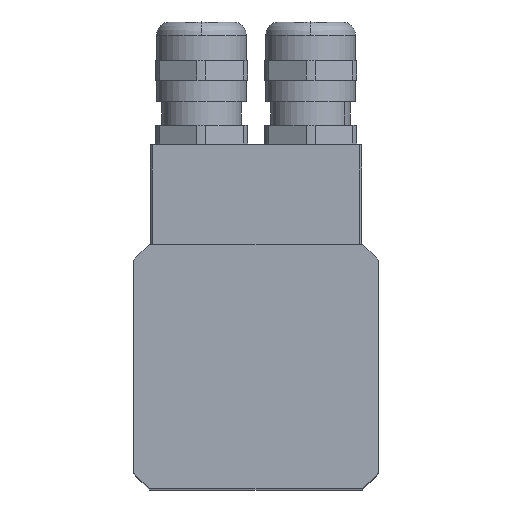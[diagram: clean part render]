
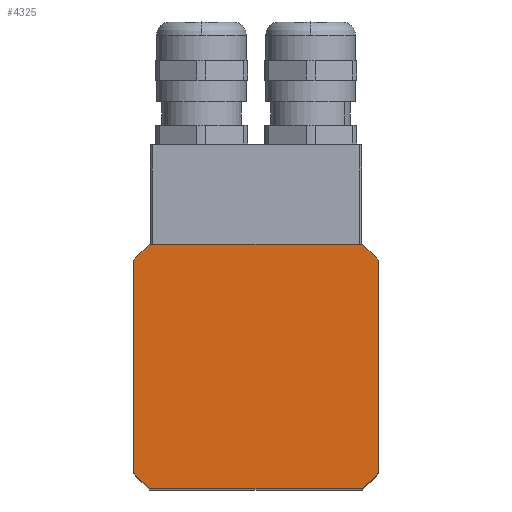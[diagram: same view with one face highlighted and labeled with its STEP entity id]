
A CAD part, top view. The second image highlights one B-rep face of the part: STEP entity #4325.
In plain terms, the highlighted planar face has unit normal (0, 0, 1).
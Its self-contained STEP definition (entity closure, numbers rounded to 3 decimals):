
#4250=CARTESIAN_POINT('',(-20.35,-20.35,81.0));
#4251=DIRECTION('',(0.0,0.0,1.0));
#4252=DIRECTION('',(1.0,0.0,0.0));
#4253=AXIS2_PLACEMENT_3D('',#4250,#4251,#4252);
#4254=PLANE('',#4253);
#4255=CARTESIAN_POINT('',(-16.062,18.5,81.0));
#4256=VERTEX_POINT('',#4255);
#4257=CARTESIAN_POINT('',(-18.5,16.062,81.0));
#4258=VERTEX_POINT('',#4257);
#4259=CARTESIAN_POINT('',(0.0,0.0,81.0));
#4260=DIRECTION('',(0.0,0.0,1.0));
#4261=DIRECTION('',(-1.0,0.0,0.0));
#4262=AXIS2_PLACEMENT_3D('',#4259,#4260,#4261);
#4263=CIRCLE('',#4262,24.5);
#4264=EDGE_CURVE('',#4256,#4258,#4263,.T.);
#4265=ORIENTED_EDGE('',*,*,#4264,.T.);
#4266=CARTESIAN_POINT('',(-18.5,-16.062,81.0));
#4267=VERTEX_POINT('',#4266);
#4268=CARTESIAN_POINT('',(-18.5,-16.062,81.0));
#4269=DIRECTION('',(0.0,1.0,0.0));
#4270=VECTOR('',#4269,32.125);
#4271=LINE('',#4268,#4270);
#4272=EDGE_CURVE('',#4267,#4258,#4271,.T.);
#4273=ORIENTED_EDGE('',*,*,#4272,.F.);
#4274=CARTESIAN_POINT('',(-16.062,-18.5,81.0));
#4275=VERTEX_POINT('',#4274);
#4276=CARTESIAN_POINT('',(0.0,0.0,81.0));
#4277=DIRECTION('',(0.0,0.0,1.0));
#4278=DIRECTION('',(-1.0,0.0,0.0));
#4279=AXIS2_PLACEMENT_3D('',#4276,#4277,#4278);
#4280=CIRCLE('',#4279,24.5);
#4281=EDGE_CURVE('',#4267,#4275,#4280,.T.);
#4282=ORIENTED_EDGE('',*,*,#4281,.T.);
#4283=CARTESIAN_POINT('',(16.062,-18.5,81.0));
#4284=VERTEX_POINT('',#4283);
#4285=CARTESIAN_POINT('',(16.062,-18.5,81.0));
#4286=DIRECTION('',(-1.0,0.0,0.0));
#4287=VECTOR('',#4286,32.125);
#4288=LINE('',#4285,#4287);
#4289=EDGE_CURVE('',#4284,#4275,#4288,.T.);
#4290=ORIENTED_EDGE('',*,*,#4289,.F.);
#4291=CARTESIAN_POINT('',(18.5,-16.062,81.0));
#4292=VERTEX_POINT('',#4291);
#4293=CARTESIAN_POINT('',(0.0,0.0,81.0));
#4294=DIRECTION('',(0.0,0.0,1.0));
#4295=DIRECTION('',(-1.0,0.0,0.0));
#4296=AXIS2_PLACEMENT_3D('',#4293,#4294,#4295);
#4297=CIRCLE('',#4296,24.5);
#4298=EDGE_CURVE('',#4284,#4292,#4297,.T.);
#4299=ORIENTED_EDGE('',*,*,#4298,.T.);
#4300=CARTESIAN_POINT('',(18.5,16.062,81.0));
#4301=VERTEX_POINT('',#4300);
#4302=CARTESIAN_POINT('',(18.5,16.062,81.0));
#4303=DIRECTION('',(0.0,-1.0,0.0));
#4304=VECTOR('',#4303,32.125);
#4305=LINE('',#4302,#4304);
#4306=EDGE_CURVE('',#4301,#4292,#4305,.T.);
#4307=ORIENTED_EDGE('',*,*,#4306,.F.);
#4308=CARTESIAN_POINT('',(16.062,18.5,81.0));
#4309=VERTEX_POINT('',#4308);
#4310=CARTESIAN_POINT('',(0.0,0.0,81.0));
#4311=DIRECTION('',(0.0,0.0,1.0));
#4312=DIRECTION('',(-1.0,0.0,0.0));
#4313=AXIS2_PLACEMENT_3D('',#4310,#4311,#4312);
#4314=CIRCLE('',#4313,24.5);
#4315=EDGE_CURVE('',#4301,#4309,#4314,.T.);
#4316=ORIENTED_EDGE('',*,*,#4315,.T.);
#4317=CARTESIAN_POINT('',(-16.062,18.5,81.0));
#4318=DIRECTION('',(1.0,0.0,0.0));
#4319=VECTOR('',#4318,32.125);
#4320=LINE('',#4317,#4319);
#4321=EDGE_CURVE('',#4256,#4309,#4320,.T.);
#4322=ORIENTED_EDGE('',*,*,#4321,.F.);
#4323=EDGE_LOOP('',(#4265,#4273,#4282,#4290,#4299,#4307,#4316,#4322));
#4324=FACE_OUTER_BOUND('',#4323,.T.);
#4325=ADVANCED_FACE('',(#4324),#4254,.T.);
